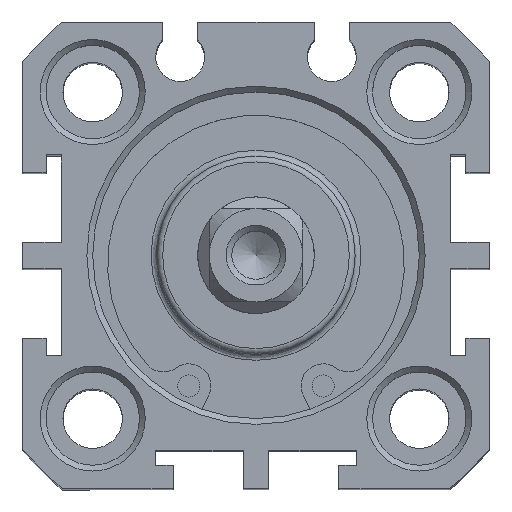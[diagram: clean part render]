
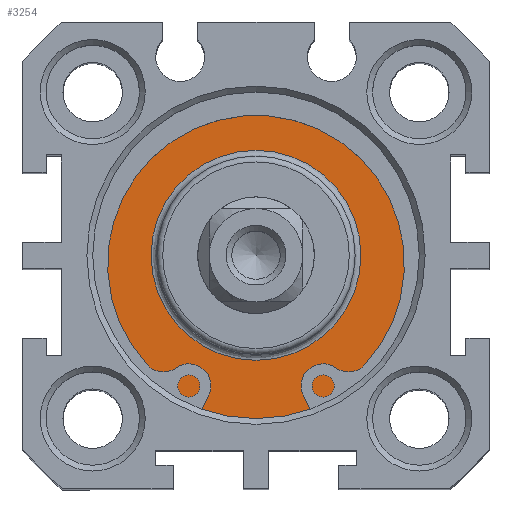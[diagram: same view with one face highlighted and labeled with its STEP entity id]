
A CAD part, top view. The second image highlights one B-rep face of the part: STEP entity #3254.
In plain terms, the highlighted planar face has unit normal (0, 0, 1).
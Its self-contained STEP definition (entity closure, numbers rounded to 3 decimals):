
#3203=CARTESIAN_POINT('',(-2.524,11.284,68.3));
#3204=VERTEX_POINT('',#3203);
#3205=CARTESIAN_POINT('',(-2.524,2.284,68.3));
#3206=DIRECTION('',(0.0,0.0,1.0));
#3207=DIRECTION('',(0.0,-1.0,0.0));
#3208=AXIS2_PLACEMENT_3D('',#3205,#3206,#3207);
#3209=CIRCLE('',#3208,9.);
#3210=EDGE_CURVE('',#3204,#3204,#3209,.T.);
#3235=CARTESIAN_POINT('',(-2.524,13.534,68.3));
#3236=DIRECTION('',(0.0,0.0,1.0));
#3237=DIRECTION('',(1.0,0.0,0.0));
#3238=AXIS2_PLACEMENT_3D('',#3235,#3236,#3237);
#3239=PLANE('',#3238);
#3240=CARTESIAN_POINT('',(-2.524,16.284,68.3));
#3241=VERTEX_POINT('',#3240);
#3242=CARTESIAN_POINT('',(-2.524,2.284,68.3));
#3243=DIRECTION('',(0.0,0.0,-1.0));
#3244=DIRECTION('',(0.0,1.0,0.0));
#3245=AXIS2_PLACEMENT_3D('',#3242,#3243,#3244);
#3246=CIRCLE('',#3245,14.);
#3247=EDGE_CURVE('',#3241,#3241,#3246,.T.);
#3248=ORIENTED_EDGE('',*,*,#3247,.F.);
#3249=EDGE_LOOP('',(#3248));
#3250=FACE_OUTER_BOUND('',#3249,.T.);
#3251=ORIENTED_EDGE('',*,*,#3210,.F.);
#3252=EDGE_LOOP('',(#3251));
#3253=FACE_BOUND('',#3252,.T.);
#3254=ADVANCED_FACE('',(#3250,#3253),#3239,.T.);
